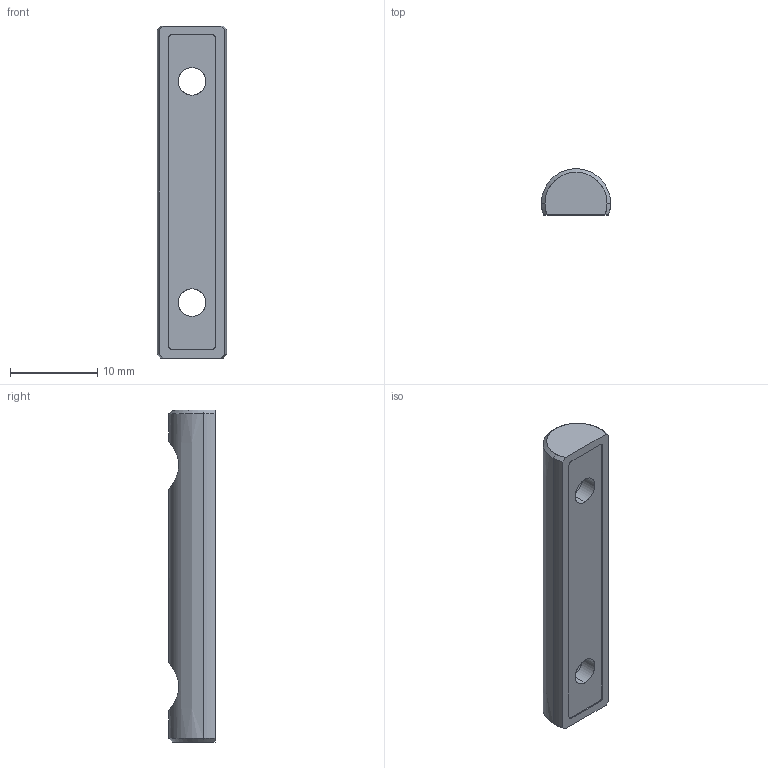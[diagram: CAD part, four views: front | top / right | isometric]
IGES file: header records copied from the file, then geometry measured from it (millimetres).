
Start section: SolidWorks IGES file using analytic representation for surfaces
Global section: file name: D:\Solid_parts\MECHeDESIGN\Bal-Tec\Catalog 105-A\Distribution\IGES\312-TCR-CB.IGS; native system: SolidWorks 2005 by SolidWorks Corporation; preprocessor: SolidWorks 2005 by SolidWorks Corporation; author: rvillegas; date: 061205.190306; units: inch
Bounding box: 7.94 x 5.28 x 38.1 mm (x, y, z)
Surface area: 1031 mm2 (no closed solid volume)
Topology: 0 solids, 0 shells, 31 faces, 514 edges, 514 vertices
Faces by surface type: revolution 21, bspline 10
